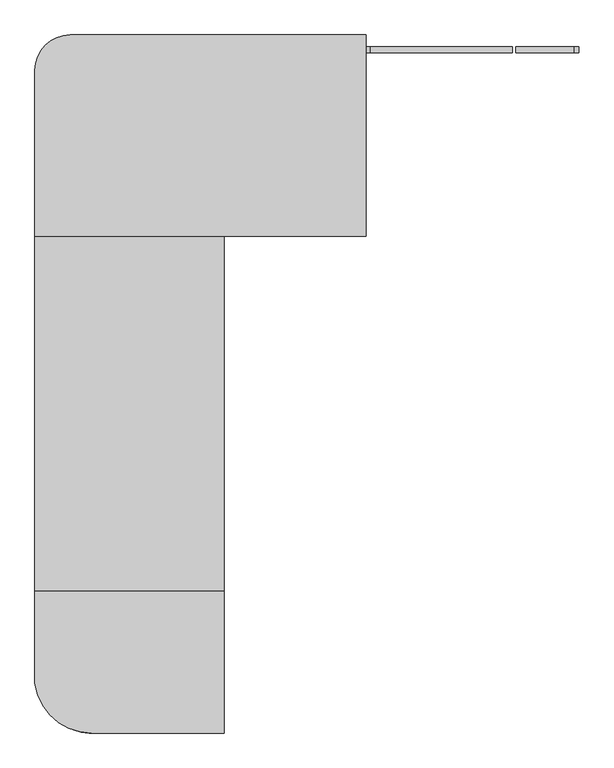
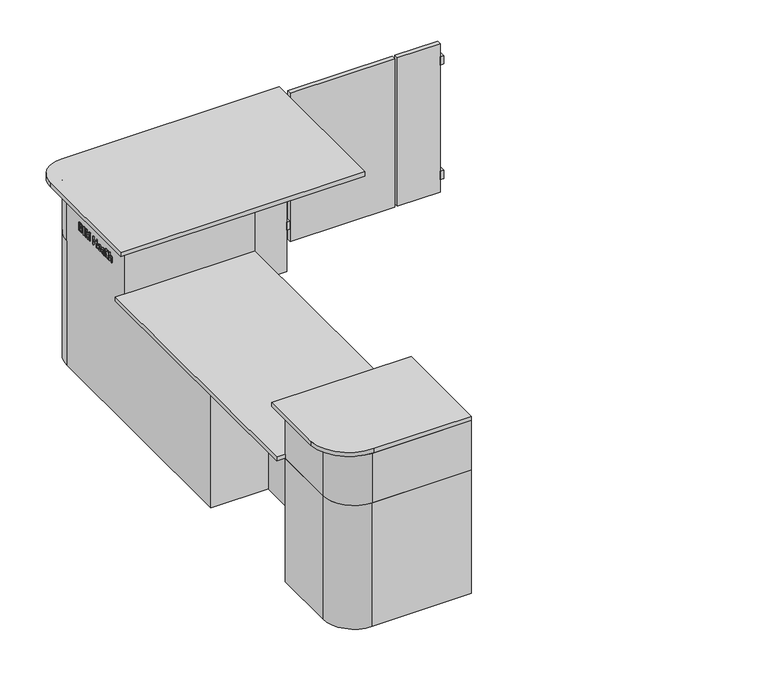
"""IFC4 building model written with IfcOpenShell, lengths in millimetres: furniture geometry, BIMHealth-Desk_Reception-LOD2A-v1 : BIMHealth-Desk_Reception-LOD2A-v1."""

from ifc_helpers import new_model, si_unit, point, frame, frame_2d, origin, place, context, project, spatial, polyline, circle_curve, trimmed, segment, composite_curve, outline, extrude, source, transform, mapped, element, save
from ifc_brep_helpers import plane_surface, cylinder_surface, revolved_surface, advanced_brep


def furniture_f5552fc6(model_context):
    return source(origin(), model_context, "Body", "SolidModel", [
        extrude(outline(polyline([(1899.8653491, 1450.0), (1899.8653491, 1425.0), (1880.0, 1425.0), (1880.0, 1450.0), (1899.8653491, 1450.0)])), frame((0.0, 0.0, 250.0), z_axis=(0.0, 0.0, 1.0), x_axis=(1.0, 0.0, 0.0)), (0.0, 0.0, 1.0), 50.0),
        extrude(outline(polyline([(1899.8653491, 1450.0), (1899.8653491, 1425.0), (1880.0, 1425.0), (1880.0, 1450.0), (1899.8653491, 1450.0)])), frame((0.0, 0.0, 945.0), z_axis=(0.0, 0.0, 1.0), x_axis=(1.0, 0.0, 0.0)), (0.0, 0.0, 1.0), 50.0),
        extrude(outline(polyline([(1619.8653491, 1425.0), (1019.8653491, 1425.0), (1019.8653491, 1450.0), (1619.8653491, 1450.0), (1619.8653491, 1425.0)])), frame((0.0, 0.0, 175.0), z_axis=(0.0, 0.0, 1.0), x_axis=(1.0, 0.0, 0.0)), (0.0, 0.0, 1.0), 900.0),
        extrude(outline(polyline([(1880.0, 1425.0), (1634.8653491, 1425.0), (1634.8653491, 1450.0), (1880.0, 1450.0), (1880.0, 1425.0)])), frame((0.0, 0.0, 175.0), z_axis=(0.0, 0.0, 1.0), x_axis=(1.0, 0.0, 0.0)), (0.0, 0.0, 1.0), 900.0),
        extrude(outline(polyline([(1019.8653491, 1450.0), (1019.8653491, 1425.0), (1000.0, 1425.0), (1000.0, 1450.0), (1019.8653491, 1450.0)])), frame((0.0, 0.0, 250.0), z_axis=(0.0, 0.0, 1.0), x_axis=(1.0, 0.0, 0.0)), (0.0, 0.0, 1.0), 50.0),
        extrude(outline(polyline([(1019.8653491, 1450.0), (1019.8653491, 1425.0), (1000.0, 1425.0), (1000.0, 1450.0), (1019.8653491, 1450.0)])), frame((0.0, 0.0, 945.0), z_axis=(0.0, 0.0, 1.0), x_axis=(1.0, 0.0, 0.0)), (0.0, 0.0, 1.0), 50.0),
        extrude(outline(composite_curve([segment(polyline([(-350.0, -900.0), (0.0, -900.0), (0.0, -925.0), (-325.0, -925.0), (-325.0, -1270.0)]), True, "CONTINUOUS"), segment(trimmed(circle_curve(frame_2d((-170.0, -1270.0)), 155.0), [point((-325.0, -1270.0))], [point((-170.0, -1425.0))], True, "CARTESIAN"), True, "CONTINUOUS"), segment(polyline([(-170.0, -1425.0), (400.0, -1425.0), (400.0, -1450.0), (-170.0, -1450.0)]), True, "CONTINUOUS"), segment(trimmed(circle_curve(frame_2d((-170.0, -1270.0)), 180.0), [point((-170.0, -1450.0))], [point((-350.0, -1270.0))], False, "CARTESIAN"), True, "CONTINUOUS"), segment(polyline([(-350.0, -1270.0), (-350.0, -900.0)]), True, "CONTINUOUS")], self_intersect=False)), frame((0.0, 0.0, 750.0), z_axis=(0.0, 0.0, 1.0), x_axis=(1.0, 0.0, 0.0)), (0.0, 0.0, 1.0), 300.0),
        advanced_brep(
        [(-170.0, -1450.0, 750.0), (400.0, -1450.0, 750.0), (400.0, -1425.0, 750.0), (-165.2907028, -1425.0, 750.0), (-325.0, -1265.0, 750.0), (-325.0, -925.0, 750.0), (0.0, -925.0, 750.0), (0.0, -140.0, 750.0), (-325.0, -140.0, 750.0), (-325.0, 700.0, 750.0), (-350.0, 700.0, 750.0), (-350.0, -160.0, 750.0), (-20.0, -160.0, 750.0), (-20.0, -900.0, 750.0), (-350.0, -900.0, 750.0), (-350.0, -1270.0, 750.0), (-170.0, -1450.0, 0.0), (-350.0, -1270.0, 0.0), (-350.0, -900.0, 0.0), (-20.0, -900.0, 0.0), (-20.0, -160.0, 0.0), (-350.0, -160.0, 0.0), (-350.0, 1270.0, 0.0), (-170.0, 1450.0, 0.0), (1000.0, 1450.0, 0.0), (1000.0, 1425.0, 0.0), (-175.0, 1425.0, 0.0), (-325.0, 1265.0, 0.0), (-325.0, -140.0, 0.0), (0.0, -140.0, 0.0), (0.0, -925.0, 0.0), (-325.0, -925.0, 0.0), (-325.0, -1265.0, 0.0), (-165.2907028, -1425.0, 0.0), (400.0, -1425.0, 0.0), (400.0, -1450.0, 0.0), (-325.0, 1265.0, 750.0), (-325.0, 1265.0, 1050.0), (-325.0, 725.0, 1050.0), (-325.0, 725.0, 750.0), (-175.0, 1425.0, 750.0), (1000.0, 1425.0, 1050.0), (-175.0, 1425.0, 1050.0), (1000.0, 1450.0, 1050.0), (-170.0, 1450.0, 750.0), (-170.0, 1450.0, 1050.0), (-350.0, 1270.0, 750.0), (-350.0, 700.0, 1050.0), (-350.0, 1270.0, 1050.0), (400.0, 700.0, 1050.0), (400.0, 725.0, 1050.0), (400.0, 725.0, 750.0), (400.0, 700.0, 750.0)],
        [
            (0, 1),
            (1, 2),
            (2, 3),
            (3, 4, circle_curve(frame((-165.2907028, -1265.2904387, 750.0), z_axis=(0.0, 0.0, -1.0), x_axis=(1.0, 0.0, 0.0)), 159.7095613)),
            (4, 5),
            (5, 6),
            (6, 7),
            (7, 8),
            (8, 9),
            (9, 10),
            (10, 11),
            (11, 12),
            (12, 13),
            (13, 14),
            (14, 15),
            (15, 0, circle_curve(frame((-170.0, -1270.0, 750.0), z_axis=(0.0, 0.0, 1.0), x_axis=(1.0, 0.0, 0.0)), 180.0)),
            (16, 17, circle_curve(frame((-170.0, -1270.0, 0.0), z_axis=(0.0, 0.0, -1.0), x_axis=(1.0, 0.0, 0.0)), 180.0)),
            (17, 18),
            (18, 19),
            (19, 20),
            (20, 21),
            (21, 22),
            (22, 23, circle_curve(frame((-170.0, 1270.0, 0.0), z_axis=(0.0, 0.0, -1.0), x_axis=(1.0, 0.0, 0.0)), 180.0)),
            (23, 24),
            (24, 25),
            (25, 26),
            (26, 27, circle_curve(frame((-164.6666667, 1265.0, 0.0), z_axis=(0.0, 0.0, 1.0), x_axis=(1.0, 0.0, 0.0)), 160.3333333)),
            (27, 28),
            (28, 29),
            (29, 30),
            (30, 31),
            (31, 32),
            (32, 33, circle_curve(frame((-165.2907028, -1265.2904387, 0.0), z_axis=(0.0, 0.0, 1.0), x_axis=(1.0, 0.0, 0.0)), 159.7095613)),
            (33, 34),
            (34, 35),
            (35, 16),
            (0, 16),
            (35, 1),
            (34, 2),
            (33, 3),
            (32, 4),
            (31, 5),
            (30, 6),
            (29, 7),
            (28, 8),
            (27, 36),
            (36, 37),
            (37, 38),
            (38, 39),
            (39, 9),
            (26, 40),
            (40, 36, circle_curve(frame((-164.6666667, 1265.0, 750.0), z_axis=(0.0, 0.0, 1.0), x_axis=(1.0, 0.0, 0.0)), 160.3333333)),
            (25, 41),
            (41, 42),
            (42, 40),
            (24, 43),
            (43, 41),
            (23, 44),
            (44, 45),
            (45, 43),
            (22, 46),
            (46, 44, circle_curve(frame((-170.0, 1270.0, 750.0), z_axis=(0.0, 0.0, -1.0), x_axis=(1.0, 0.0, 0.0)), 180.0)),
            (21, 11),
            (10, 47),
            (47, 48),
            (48, 46),
            (20, 12),
            (19, 13),
            (18, 14),
            (17, 15),
            (47, 49),
            (49, 50),
            (50, 38),
            (37, 42, circle_curve(frame((-164.6666667, 1265.0, 1050.0), z_axis=(0.0, 0.0, -1.0), x_axis=(1.0, 0.0, 0.0)), 160.3333333)),
            (45, 48, circle_curve(frame((-170.0, 1270.0, 1050.0), z_axis=(0.0, 0.0, 1.0), x_axis=(1.0, 0.0, 0.0)), 180.0)),
            (39, 51),
            (51, 52),
            (52, 9),
            (52, 49),
            (51, 50),
        ],
        [
            plane_surface(frame((400.0, -1450.0, 750.0), z_axis=(0.0, 0.0, 1.0), x_axis=(1.0, 0.0, 0.0))),
            plane_surface(frame((400.0, -1450.0, 0.0), z_axis=(0.0, 0.0, -1.0), x_axis=(-1.0, 0.0, 0.0))),
            plane_surface(frame((-170.0, -1450.0, 750.0), z_axis=(0.0, -1.0, 0.0), x_axis=(0.0, 0.0, -1.0))),
            plane_surface(frame((400.0, -1450.0, 750.0), z_axis=(1.0, 0.0, 0.0), x_axis=(0.0, 0.0, -1.0))),
            plane_surface(frame((400.0, -1425.0, 750.0), z_axis=(0.0, 1.0, 0.0), x_axis=(0.0, 0.0, -1.0))),
            revolved_surface(polyline([(-5.581141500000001, -1265.2904387, 0.0), (-5.581141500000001, -1265.2904387, 750.0)]), (-165.2907028, -1265.2904387, 0.0), (0.0, 0.0, -1.0)),
            plane_surface(frame((-325.0, -1265.0, 750.0), z_axis=(1.0, 0.0, 0.0), x_axis=(0.0, 0.0, -1.0))),
            plane_surface(frame((-325.0, -925.0, 750.0), z_axis=(0.0, -1.0, 0.0), x_axis=(0.0, 0.0, -1.0))),
            plane_surface(frame((0.0, -925.0, 750.0), z_axis=(1.0, 0.0, 0.0), x_axis=(0.0, 0.0, -1.0))),
            plane_surface(frame((0.0, -140.0, 750.0), z_axis=(0.0, 1.0, 0.0), x_axis=(0.0, 0.0, -1.0))),
            plane_surface(frame((-325.0, -140.0, 750.0), z_axis=(1.0, 0.0, 0.0), x_axis=(0.0, 0.0, -1.0))),
            revolved_surface(polyline([(-4.333333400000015, 1265.0, 0.0), (-4.333333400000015, 1265.0, 750.0)]), (-164.6666667, 1265.0, 0.0), (0.0, 0.0, -1.0)),
            plane_surface(frame((-175.0, 1425.0, 750.0), z_axis=(0.0, -1.0, 0.0), x_axis=(0.0, 0.0, -1.0))),
            plane_surface(frame((1000.0, 1425.0, 750.0), z_axis=(1.0, 0.0, 0.0), x_axis=(0.0, 0.0, -1.0))),
            plane_surface(frame((1000.0, 1450.0, 750.0), z_axis=(0.0, 1.0, 0.0), x_axis=(0.0, 0.0, -1.0))),
            cylinder_surface(frame((-170.0, 1270.0, 0.0), z_axis=(0.0, 0.0, 1.0), x_axis=(1.0, 0.0, 0.0)), 180.0),
            plane_surface(frame((-350.0, 1270.0, 750.0), z_axis=(-1.0, 0.0, 0.0), x_axis=(0.0, 0.0, -1.0))),
            plane_surface(frame((-350.0, -160.0, 750.0), z_axis=(0.0, -1.0, 0.0), x_axis=(0.0, 0.0, -1.0))),
            plane_surface(frame((-20.0, -160.0, 750.0), z_axis=(-1.0, 0.0, 0.0), x_axis=(0.0, 0.0, -1.0))),
            plane_surface(frame((-20.0, -900.0, 750.0), z_axis=(0.0, 1.0, 0.0), x_axis=(0.0, 0.0, -1.0))),
            plane_surface(frame((-350.0, -900.0, 750.0), z_axis=(-1.0, 0.0, 0.0), x_axis=(0.0, 0.0, -1.0))),
            cylinder_surface(frame((-170.0, -1270.0, 0.0), z_axis=(0.0, 0.0, 1.0), x_axis=(1.0, 0.0, 0.0)), 180.0),
            plane_surface(frame((1000.0, 700.0, 1050.0), z_axis=(0.0, 0.0, 1.0), x_axis=(1.0, 0.0, 0.0))),
            plane_surface(frame((1000.0, 700.0, 750.0), z_axis=(0.0, 0.0, -1.0), x_axis=(-1.0, 0.0, 0.0))),
            plane_surface(frame((-350.0, 700.0, 1050.0), z_axis=(0.0, -1.0, 0.0), x_axis=(0.0, 0.0, -1.0))),
            plane_surface(frame((400.0, 700.0, 1050.0), z_axis=(1.0, 0.0, 0.0), x_axis=(0.0, 0.0, -1.0))),
            plane_surface(frame((400.0, 725.0, 1050.0), z_axis=(0.0, 1.0, 0.0), x_axis=(0.0, 0.0, -1.0))),
            revolved_surface(polyline([(-4.333333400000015, 1265.0, 750.0), (-4.333333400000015, 1265.0, 1050.0)]), (-164.6666667, 1265.0, 750.0), (0.0, 0.0, -1.0)),
            cylinder_surface(frame((-170.0, 1270.0, 750.0), z_axis=(0.0, 0.0, 1.0), x_axis=(1.0, 0.0, 0.0)), 180.0),
        ],
        [
            (0, [[1, 2, 3, 4, 5, 6, 7, 8, 9, 10, 11, 12, 13, 14, 15, 16]]),
            (1, [[17, 18, 19, 20, 21, 22, 23, 24, 25, 26, 27, 28, 29, 30, 31, 32, 33, 34, 35, 36]]),
            (2, [[-1, 37, -36, 38]]),
            (3, [[-2, -38, -35, 39]]),
            (4, [[-3, -39, -34, 40]]),
            (5, [[-4, -40, -33, 41]]),
            (6, [[-5, -41, -32, 42]]),
            (7, [[-6, -42, -31, 43]]),
            (8, [[-7, -43, -30, 44]]),
            (9, [[-8, -44, -29, 45]]),
            (10, [[-28, 46, 47, 48, 49, 50, -9, -45]]),
            (11, [[-27, 51, 52, -46]]),
            (12, [[-26, 53, 54, 55, -51]]),
            (13, [[-53, -25, 56, 57]]),
            (14, [[-56, -24, 58, 59, 60]]),
            (15, [[-23, 61, 62, -58]]),
            (16, [[-22, 63, -11, 64, 65, 66, -61]]),
            (17, [[-12, -63, -21, 67]]),
            (18, [[-13, -67, -20, 68]]),
            (19, [[-14, -68, -19, 69]]),
            (20, [[-15, -69, -18, 70]]),
            (21, [[-16, -70, -17, -37]]),
            (22, [[71, 72, 73, -48, 74, -54, -57, -60, 75, -65]]),
            (23, [[76, 77, 78, -50]]),
            (24, [[-71, -64, -10, -78, 79]]),
            (25, [[-72, -79, -77, 80]]),
            (26, [[-73, -80, -76, -49]]),
            (27, [[-74, -47, -52, -55]]),
            (28, [[-75, -59, -62, -66]]),
        ],
    ),
        extrude(outline(composite_curve([segment(polyline([(-400.0, 650.0), (-400.0, 1350.0)]), True, "CONTINUOUS"), segment(trimmed(circle_curve(frame_2d((-250.0, 1350.0)), 150.0), [point((-400.0, 1350.0))], [point((-250.0, 1500.0))], False, "CARTESIAN"), True, "CONTINUOUS"), segment(polyline([(-250.0, 1500.0), (1000.0, 1500.0), (1000.0, 650.0), (-400.0, 650.0)]), True, "CONTINUOUS")], self_intersect=False)), frame((0.0, 0.0, 1050.0), z_axis=(0.0, 0.0, 1.0), x_axis=(1.0, 0.0, 0.0)), (0.0, 0.0, 1.0), 25.0),
        extrude(outline(polyline([(1142.6260508, 895.9796557), (1123.9842239, 895.9796557), (1116.0935989, 896.8270115), (1110.7390315, 899.3270115), (1107.1512912, 904.0385499), (1105.7029739, 910.6551365), (1107.8243681, 918.3113865), (1113.88807, 922.9027326), (1108.8940796, 927.2597038), (1107.2414354, 933.0109057), (1109.2065796, 939.3089826), (1114.6392719, 943.7621076), (1123.8399931, 945.2104249), (1142.6260508, 945.2104249), (1142.6260508, 895.9796557)]), holes=[polyline([(1136.4722046, 925.2104249), (1136.4722046, 939.0565788), (1126.0875892, 939.0565788), (1118.1789354, 938.4135499), (1114.6332623, 936.0397519), (1113.3952815, 932.0253288), (1114.7234065, 928.0169153), (1118.6717239, 925.7392711), (1125.2342239, 925.2104249), (1136.4722046, 925.2104249)]), polyline([(1136.4722046, 902.1335019), (1136.4722046, 919.0565788), (1124.4529739, 919.0565788), (1116.8508104, 918.2332615), (1113.0347046, 915.3786942), (1111.85682, 910.5950403), (1112.8604258, 906.4484057), (1115.4205219, 903.7140307), (1119.2847046, 902.3738865), (1123.8520123, 902.1335019), (1136.4722046, 902.1335019)])]), frame((-355.0, 0.0, 0.0), z_axis=(1.0, 0.0, 0.0), x_axis=(0.0, 1.0, 0.0)), (0.0, 0.0, 1.0), 5.0),
        extrude(outline(polyline([(-355.0, 1090.3183585), (-355.0, 1096.4722046), (-350.0, 1096.4722046), (-350.0, 1090.3183585), (-355.0, 1090.3183585)])), frame((0.0, 0.0, 895.9796557), z_axis=(0.0, 0.0, 1.0), x_axis=(1.0, 0.0, 0.0)), (0.0, 0.0, 1.0), 49.2307692),
        extrude(outline(polyline([(1078.0106662, 895.9796557), (1071.85682, 895.9796557), (1071.85682, 939.0565788), (1059.4770123, 895.9796557), (1051.1476854, 895.9796557), (1038.7798969, 939.0565788), (1038.7798969, 895.9796557), (1032.6260508, 895.9796557), (1032.6260508, 945.2104249), (1043.2149931, 945.2104249), (1053.1188392, 911.1118672), (1055.3183585, 903.2633095), (1057.3616277, 910.5109057), (1067.4577815, 945.2104249), (1078.0106662, 945.2104249), (1078.0106662, 895.9796557)])), frame((-355.0, 0.0, 0.0), z_axis=(1.0, 0.0, 0.0), x_axis=(0.0, 1.0, 0.0)), (0.0, 0.0, 1.0), 5.0),
        extrude(outline(polyline([(1002.6260508, 895.9796557), (996.4722046, 895.9796557), (996.4722046, 919.0565788), (970.3183585, 919.0565788), (970.3183585, 895.9796557), (964.1645123, 895.9796557), (964.1645123, 945.2104249), (970.3183585, 945.2104249), (970.3183585, 925.2104249), (996.4722046, 925.2104249), (996.4722046, 945.2104249), (1002.6260508, 945.2104249), (1002.6260508, 895.9796557)])), frame((-355.0, 0.0, 0.0), z_axis=(1.0, 0.0, 0.0), x_axis=(0.0, 1.0, 0.0)), (0.0, 0.0, 1.0), 5.0),
        extrude(outline(polyline([(928.8520123, 906.7488865), (932.8183585, 902.6503288), (938.8520123, 901.3642711), (946.778695, 904.1407134), (950.3183585, 912.1335019), (922.6621085, 912.1335019), (922.6260508, 913.7921557), (927.2955219, 927.8907134), (939.3207623, 932.9027326), (951.70057, 927.8786942), (956.4722046, 913.756098), (951.7486469, 900.084223), (938.9722046, 895.2104249), (928.4613873, 898.0349442), (922.8183585, 905.9796557), (928.8520123, 906.7488865)]), holes=[polyline([(950.3183585, 918.287348), (946.9229258, 924.4472038), (939.3448008, 926.7488865), (931.2438392, 923.8642711), (928.7798969, 918.287348), (950.3183585, 918.287348)])]), frame((-355.0, 0.0, 0.0), z_axis=(1.0, 0.0, 0.0), x_axis=(0.0, 1.0, 0.0)), (0.0, 0.0, 1.0), 5.0),
        extrude(outline(polyline([(893.3952815, 900.5950403), (891.85682, 895.9796557), (885.7029739, 895.9796557), (886.9289354, 901.1539345), (887.2414354, 911.8450403), (887.2414354, 919.5012903), (887.5419162, 924.8859057), (889.4289354, 929.0625884), (893.6416758, 931.8089826), (901.0996085, 932.9027326), (909.2185989, 931.6647519), (914.5791758, 928.1431172), (917.2414354, 922.1335019), (911.0875892, 921.3642711), (908.1188392, 925.5649922), (901.8928777, 926.7488865), (895.0899931, 924.9700403), (893.4313392, 919.0565788), (904.1044162, 916.9411942), (909.4289354, 916.0157134), (913.7378296, 913.9964826), (916.8327815, 910.4628288), (918.0106662, 905.5950403), (914.8916758, 898.131098), (905.9553777, 895.2104249), (899.3628296, 896.4243672), (893.3952815, 900.5950403)]), holes=[polyline([(893.3952815, 912.9027326), (893.4313392, 911.1599442), (894.4048969, 906.4003288), (898.41932, 902.8366269), (904.6452815, 901.3642711), (910.0238873, 902.6984057), (911.85682, 906.0277326), (911.0154739, 908.3955211), (908.6176373, 910.0181172), (903.3231662, 911.0157134), (893.3952815, 912.9027326)])]), frame((-355.0, 0.0, 0.0), z_axis=(1.0, 0.0, 0.0), x_axis=(0.0, 1.0, 0.0)), (0.0, 0.0, 1.0), 5.0),
        extrude(outline(polyline([(-355.0, 872.6260508), (-355.0, 878.7798969), (-350.0, 878.7798969), (-350.0, 872.6260508), (-355.0, 872.6260508)])), frame((0.0, 0.0, 895.9796557), z_axis=(0.0, 0.0, 1.0), x_axis=(1.0, 0.0, 0.0)), (0.0, 0.0, 1.0), 49.2307692),
        extrude(outline(polyline([(850.3183585, 901.1118672), (852.9986469, 901.3642711), (856.1476854, 902.9027326), (856.4722046, 906.0758095), (856.4722046, 925.9796557), (850.3183585, 925.9796557), (850.3183585, 932.1335019), (856.4722046, 932.1335019), (856.4722046, 944.537348), (862.6260508, 940.9195595), (862.6260508, 932.1335019), (867.2414354, 932.1335019), (867.2414354, 925.9796557), (862.6260508, 925.9796557), (862.6260508, 905.8955211), (861.8808585, 898.912348), (859.3087431, 896.2320595), (854.1524931, 895.2104249), (849.5491277, 895.7993672), (850.3183585, 901.1118672)])), frame((-355.0, 0.0, 0.0), z_axis=(1.0, 0.0, 0.0), x_axis=(0.0, 1.0, 0.0)), (0.0, 0.0, 1.0), 5.0),
        extrude(outline(polyline([(844.1645123, 895.9796557), (838.0106662, 895.9796557), (838.0106662, 915.1863865), (837.0070604, 921.6647519), (833.6416758, 925.3786942), (828.5996085, 926.7488865), (823.0467239, 924.7176365), (821.0875892, 918.2272519), (821.0875892, 895.9796557), (814.9337431, 895.9796557), (814.9337431, 918.8642711), (816.1957623, 926.9532134), (820.3904739, 931.3222038), (827.3015315, 932.9027326), (838.0106662, 927.1094634), (838.0106662, 945.2104249), (844.1645123, 945.2104249), (844.1645123, 895.9796557)])), frame((-355.0, 0.0, 0.0), z_axis=(1.0, 0.0, 0.0), x_axis=(0.0, 1.0, 0.0)), (0.0, 0.0, 1.0), 5.0),
        extrude(outline(composite_curve([segment(polyline([(-400.0, -1240.0), (-400.0, -850.0), (400.0, -850.0), (400.0, -1450.0), (-160.0, -1450.0)]), True, "CONTINUOUS"), segment(trimmed(circle_curve(frame_2d((-160.0, -1207.8571429)), 242.1428571), [point((-160.0, -1450.0))], [point((-400.0, -1240.0))], False, "CARTESIAN"), True, "CONTINUOUS")], self_intersect=False)), frame((0.0, 0.0, 1050.0), z_axis=(0.0, 0.0, 1.0), x_axis=(1.0, 0.0, 0.0)), (0.0, 0.0, 1.0), 25.0),
        extrude(outline(polyline([(400.0, -900.0), (-400.0, -900.0), (-400.0, 700.0), (400.0, 700.0), (400.0, -900.0)])), frame((0.0, 0.0, 750.0), z_axis=(0.0, 0.0, 1.0), x_axis=(1.0, 0.0, 0.0)), (0.0, 0.0, 1.0), 25.0),
    ])


if __name__ == "__main__":
    model = new_model("IFC4")
    model_context = context("Model", 3, world=origin())
    ifc_project = project(units=[si_unit("LENGTHUNIT", "METRE", prefix="MILLI")], contexts=[model_context])
    site = spatial("IfcSite", under=ifc_project)
    building = spatial("IfcBuilding", under=site)
    placement = place(None, origin())
    furniture_shape = furniture_f5552fc6(model_context)
    element("IfcFurniture", 1, ObjectType="BIMHealth-Desk_Reception-LOD2A-v1 : BIMHealth-Desk_Reception-LOD2A-v1", at=placement, inside=building, context=model_context, shape_type="MappedRepresentation", body=[
        mapped(furniture_shape, transform((0.0, 0.0, 0.0), x_axis=(1.0, 0.0, 0.0), y_axis=(0.0, 1.0, 0.0), z_axis=(0.0, 0.0, 1.0))),
    ])
    save(model, "model.ifc")
